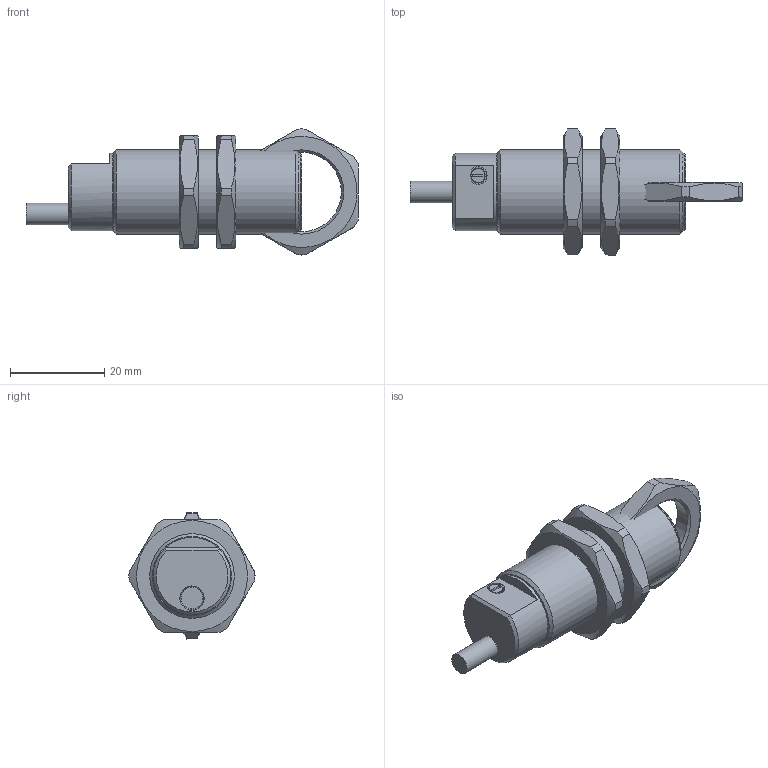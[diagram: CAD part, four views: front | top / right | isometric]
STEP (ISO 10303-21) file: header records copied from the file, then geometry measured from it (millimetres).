
FILE_DESCRIPTION( ( 'Unknown' ), '1' );
FILE_NAME( '//baumerholding.org/frauenfeld/bereich/BECH/Services/me_CAD/Solid Edge/Models/Dokumentationen/opto/FxAM 18/Vereinfachte Modelle/Neutralformate/FxAM 18_Kabel_50_Poti seitlich.stp', 'Unknown', ( 'Unknown' ), ( 'Unknown' ), 'XStep 1.0', 'Unknown', ' ' );
FILE_SCHEMA( ( 'CONFIG_CONTROL_DESIGN' ) );
Length unit declared in the file: millimetre
Products named in the file (3): Assem1; FxAM 18_Kabel_50_Poti seitlich_oA; 101474
Bounding box: 70.6 x 26.8 x 26.8 mm (x, y, z)
Volume: 27353.1 mm3; surface area: 9921.6 mm2
Topology: 5 solids, 5 shells, 161 faces, 367 edges, 240 vertices
Faces by surface type: plane 84, cylinder 49, cone 28
Full cylindrical faces by diameter (mm): 3 x4, 3.15 x2, 3.2 x2, 4.2 x2, 4.6 x2, 4.8 x2, 5.8 x2, 15.5 x2, 16.5 x4, 16.917 x3, 18 x2
Entity records: 2044 total; most frequent: CARTESIAN_POINT 435, DIRECTION 320, ORIENTED_EDGE 254, AXIS2_PLACEMENT_3D 132, EDGE_CURVE 127, EDGE_LOOP 108, VERTEX_POINT 95, FACE_OUTER_BOUND 84
